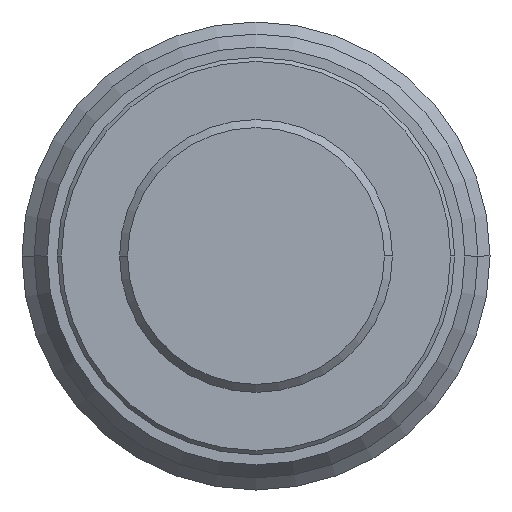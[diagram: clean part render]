
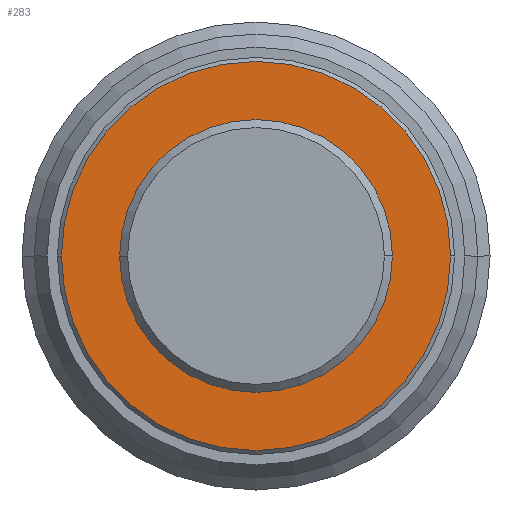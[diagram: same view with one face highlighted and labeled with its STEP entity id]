
A CAD part, front view. The second image highlights one B-rep face of the part: STEP entity #283.
In plain terms, the highlighted planar face has unit normal (0, -1, 0) as drawn and (1, 0, 0) by its records, which use the part's own axes.
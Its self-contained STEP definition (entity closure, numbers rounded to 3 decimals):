
#132=PLANE('',#1669);
#149=FACE_BOUND('',#489,.T.);
#150=FACE_BOUND('',#490,.T.);
#283=ADVANCED_FACE('',(#149,#150),#132,.T.);
#489=EDGE_LOOP('',(#1030,#1031));
#490=EDGE_LOOP('',(#1032,#1033));
#1030=ORIENTED_EDGE('',*,*,#1378,.T.);
#1031=ORIENTED_EDGE('',*,*,#1280,.T.);
#1032=ORIENTED_EDGE('',*,*,#1379,.F.);
#1033=ORIENTED_EDGE('',*,*,#1286,.F.);
#1115=VERTEX_POINT('',#2381);
#1116=VERTEX_POINT('',#2382);
#1121=VERTEX_POINT('',#2393);
#1122=VERTEX_POINT('',#2395);
#1280=EDGE_CURVE('',#1115,#1116,#1440,.T.);
#1286=EDGE_CURVE('',#1121,#1122,#1443,.T.);
#1378=EDGE_CURVE('',#1116,#1115,#1481,.T.);
#1379=EDGE_CURVE('',#1122,#1121,#1482,.T.);
#1440=CIRCLE('',#1589,14.55);
#1443=CIRCLE('',#1593,10.2);
#1481=CIRCLE('',#1667,14.55);
#1482=CIRCLE('',#1668,10.2);
#1589=AXIS2_PLACEMENT_3D('',#2380,#1924,#1925);
#1593=AXIS2_PLACEMENT_3D('',#2394,#1935,#1936);
#1667=AXIS2_PLACEMENT_3D('',#2646,#2117,#2118);
#1668=AXIS2_PLACEMENT_3D('',#2647,#2119,#2120);
#1669=AXIS2_PLACEMENT_3D('',#2648,#2121,#2122);
#1924=DIRECTION('',(1.,0.,0.));
#1925=DIRECTION('',(0.,0.,-1.));
#1935=DIRECTION('',(1.,0.,0.));
#1936=DIRECTION('',(0.,0.,-1.));
#2117=DIRECTION('',(1.,0.,0.));
#2118=DIRECTION('',(0.,0.,-1.));
#2119=DIRECTION('',(1.,0.,0.));
#2120=DIRECTION('',(0.,0.,-1.));
#2121=DIRECTION('',(1.,0.,0.));
#2122=DIRECTION('',(0.,0.,1.));
#2380=CARTESIAN_POINT('',(66.4,0.,0.));
#2381=CARTESIAN_POINT('',(66.4,0.,-14.55));
#2382=CARTESIAN_POINT('',(66.4,0.,14.55));
#2393=CARTESIAN_POINT('',(66.4,0.,-10.2));
#2394=CARTESIAN_POINT('',(66.4,0.,0.));
#2395=CARTESIAN_POINT('',(66.4,0.,10.2));
#2646=CARTESIAN_POINT('',(66.4,0.,0.));
#2647=CARTESIAN_POINT('',(66.4,0.,0.));
#2648=CARTESIAN_POINT('',(66.4,0.,0.));
